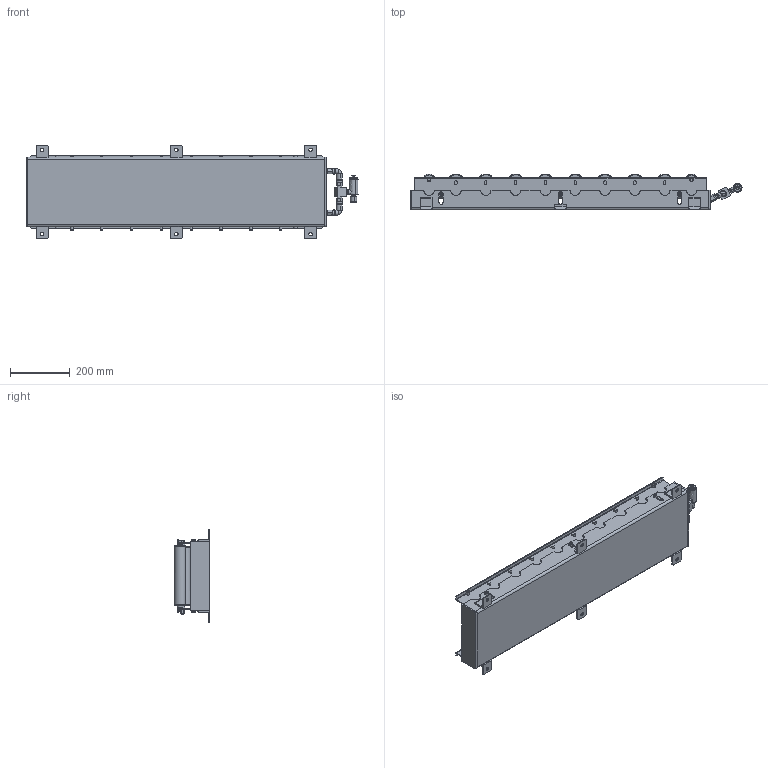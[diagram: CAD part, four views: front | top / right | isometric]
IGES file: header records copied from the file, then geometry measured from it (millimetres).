
Start section: 3D InterOp IGES (Version 21 0 2), Spatial Corp. Copyright (c) 1999-2007.
Global section: file name: ALR-PR-571008D_H.igs; native system: Spatial Corp.; preprocessor: 3D InterOp GENERIC/IGES 3.0; author: Noname; organization: Noname; date: 20130320.120141; units: millimetre
Bounding box: 1112.97 x 120.05 x 313 mm (x, y, z)
Surface area: 2093866.9 mm2 (no closed solid volume)
Topology: 0 solids, 0 shells, 1500 faces, 8838 edges, 8794 vertices
Faces by surface type: bspline 1500
